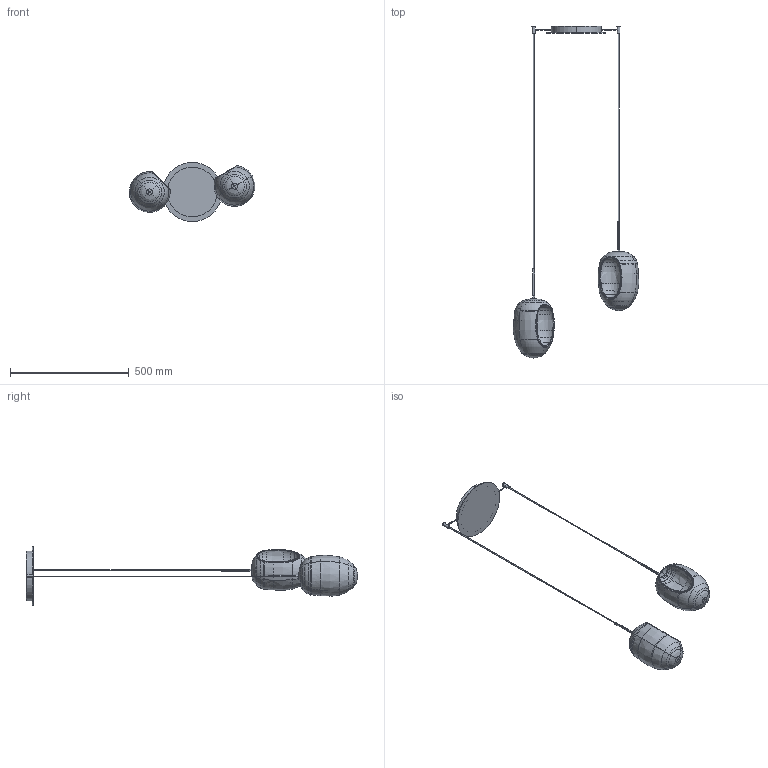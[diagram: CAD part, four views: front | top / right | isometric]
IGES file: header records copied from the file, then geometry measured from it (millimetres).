
Start section: SolidWorks IGES file using analytic representation for surfaces
Global section: file name: Y:\eforma\TECNICO\SOLIDWORKS\E-FORMA\09-LAMPADE\FOS\02 parts\FOS02_2 sospensione.IGS; native system: SolidWorks 2022; preprocessor: SolidWorks 2022; author: eforma.tech; date: 250519.091346; units: millimetre
Bounding box: 529.46 x 1400.54 x 250 mm (x, y, z)
Volume: 1887364 mm3; surface area: 770665.3 mm2
Topology: 21 solids, 21 shells, 465 faces, 1110 edges, 684 vertices
Faces by surface type: revolution 298, plane 123, bspline 44
